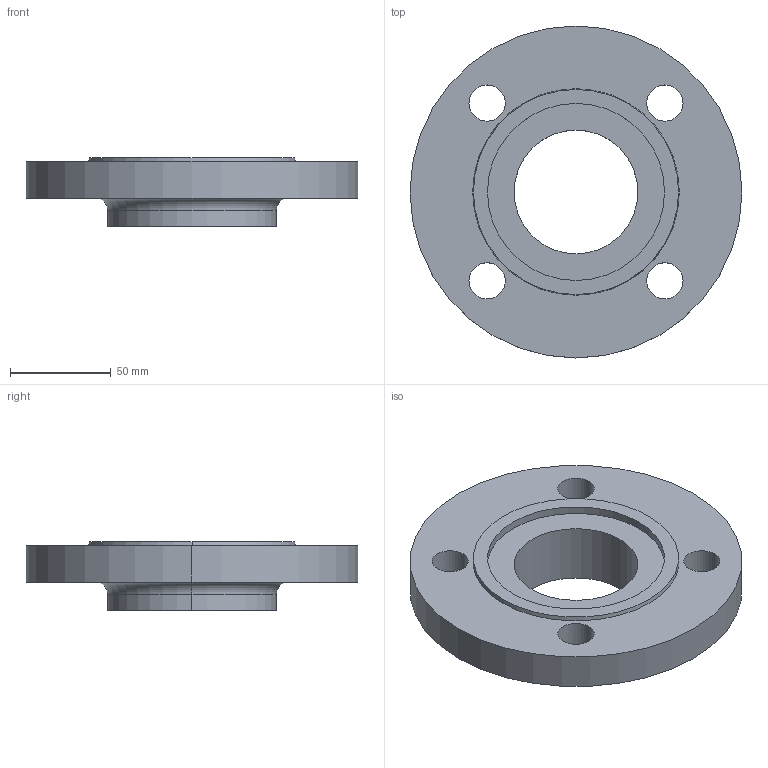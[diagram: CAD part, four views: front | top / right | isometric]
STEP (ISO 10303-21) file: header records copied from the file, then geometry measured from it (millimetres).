
FILE_DESCRIPTION (( 'STEP AP214' ), '1' );
FILE_NAME ('PN40 DN50 Type 12 - Type F Face.STEP', '2018-12-30T04:33:04', ( '' ), ( '' ), 'SwSTEP 2.0', 'SolidWorks 2019', '' );
FILE_SCHEMA (( 'AUTOMOTIVE_DESIGN' ));
Length unit declared in the file: millimetre
Products named in the file (1): PN40 DN50 Type 12 - Type F Face
Bounding box: 165 x 165 x 34 mm (x, y, z)
Volume: 349261.4 mm3; surface area: 58662.7 mm2
Topology: 1 solids, 1 shells, 25 faces, 58 edges, 38 vertices
Faces by surface type: cylinder 16, plane 5, torus 2, cone 2
Entity records: 790 total; most frequent: DIRECTION 150, CARTESIAN_POINT 122, ORIENTED_EDGE 116, AXIS2_PLACEMENT_3D 66, EDGE_CURVE 58, CIRCLE 40, VERTEX_POINT 38, EDGE_LOOP 38
